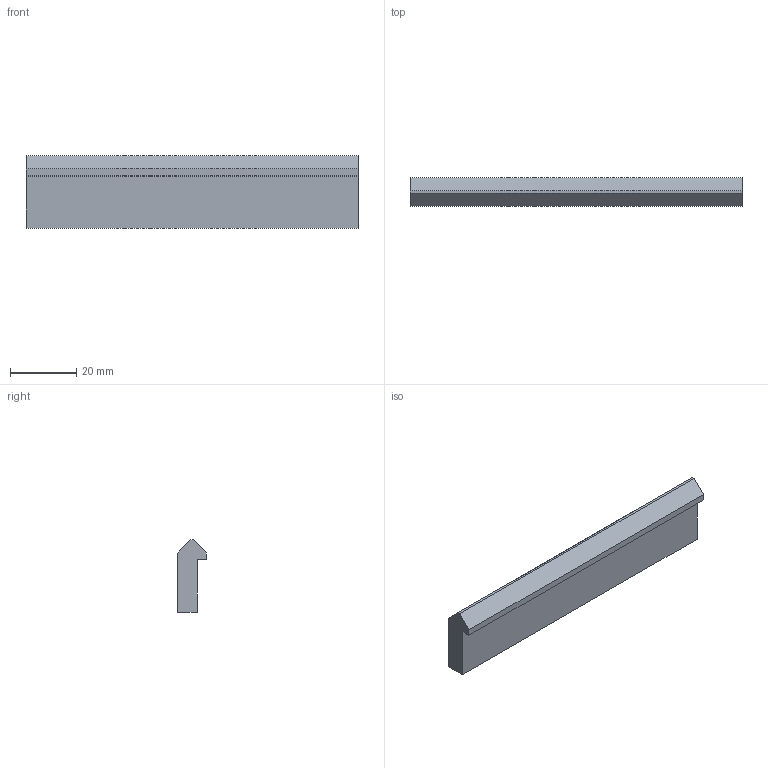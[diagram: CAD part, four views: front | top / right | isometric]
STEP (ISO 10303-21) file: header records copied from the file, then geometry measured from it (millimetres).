
FILE_DESCRIPTION((''),'2;1');
FILE_NAME('C:\Documents and Settings\土屋\My Documents\土屋移動用フォルダ\製品 (図面)\カタログ用3D\リニアガイド\VW\V3.stp','2015-02-21T14:17:24',('y'),(''),'Autodesk Inventor 11','Autodesk Inventor 11','');
FILE_SCHEMA(('AUTOMOTIVE_DESIGN { 1 0 10303 214 1 1 1 1 }'));
Length unit declared in the file: millimetre
Products named in the file (1): V3
Bounding box: 100 x 8.71 x 21.87 mm (x, y, z)
Volume: 13049.9 mm3; surface area: 5896.6 mm2
Topology: 1 solids, 1 shells, 11 faces, 27 edges, 18 vertices
Faces by surface type: plane 10, cylinder 1
Entity records: 346 total; most frequent: CARTESIAN_POINT 57, ORIENTED_EDGE 54, DIRECTION 53, EDGE_CURVE 27, VECTOR 25, LINE 25, VERTEX_POINT 18, AXIS2_PLACEMENT_3D 14
